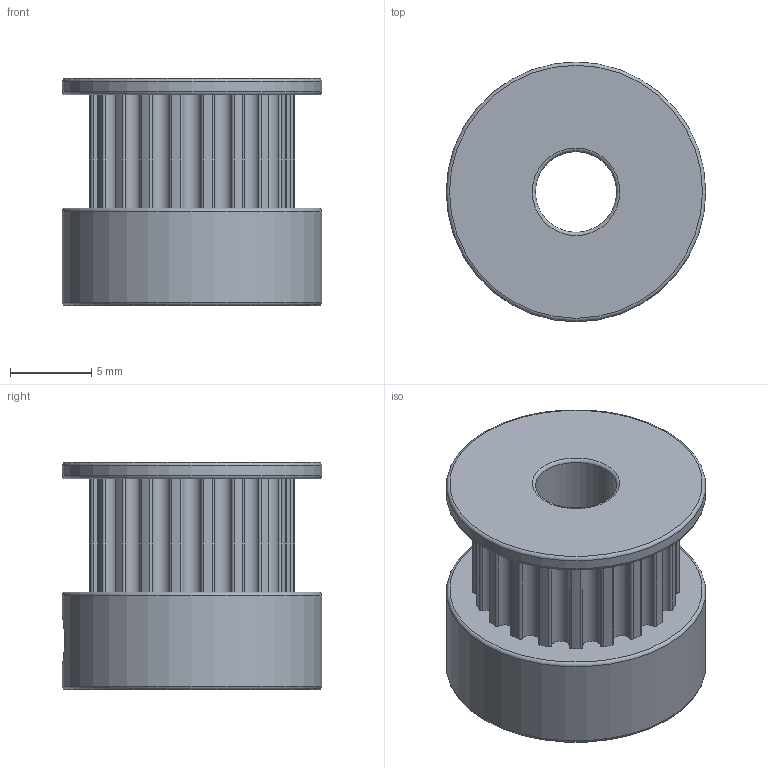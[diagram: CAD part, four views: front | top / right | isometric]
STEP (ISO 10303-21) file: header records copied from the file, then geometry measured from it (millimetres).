
FILE_DESCRIPTION(/* description */ (''),/* implementation_level */ '2;1');
FILE_NAME(/* name */ 'C:/Users/User/Desktop/20 Teeth GT2 Pulley v1.step',/* time_stamp */ '2020-09-21T13:41:14+08:00',/* author */ (''),/* organization */ (''),/* preprocessor_version */ 'ST-DEVELOPER v18.1',/* originating_system */ 'Autodesk Translation Framework v9.3.0.1241',/* authorisation */ '');
FILE_SCHEMA (('AUTOMOTIVE_DESIGN { 1 0 10303 214 3 1 1 }'));
Length unit declared in the file: millimetre
Products named in the file (1): 20 Teeth GT2 Pulley
Bounding box: 16 x 16 x 14 mm (x, y, z)
Volume: 1884.2 mm3; surface area: 1522.1 mm2
Topology: 1 solids, 1 shells, 94 faces, 271 edges, 181 vertices
Faces by surface type: cylinder 84, torus 6, plane 4
Full cylindrical faces by diameter (mm): 3 x1, 5 x1, 16 x2
Entity records: 3309 total; most frequent: DIRECTION 640, CARTESIAN_POINT 617, ORIENTED_EDGE 542, AXIS2_PLACEMENT_3D 278, EDGE_CURVE 271, CIRCLE 183, VERTEX_POINT 181, EDGE_LOOP 100
